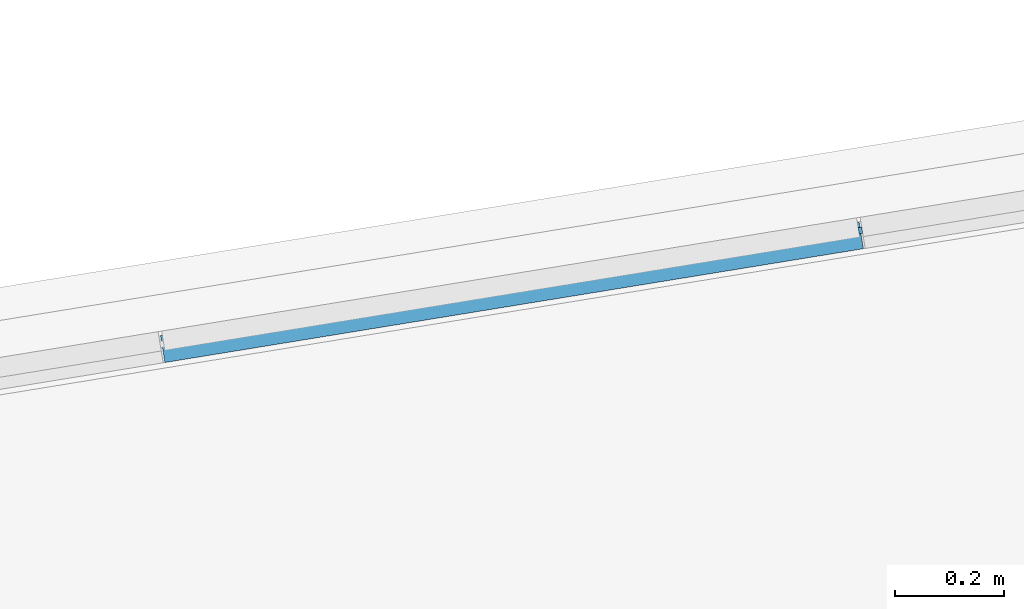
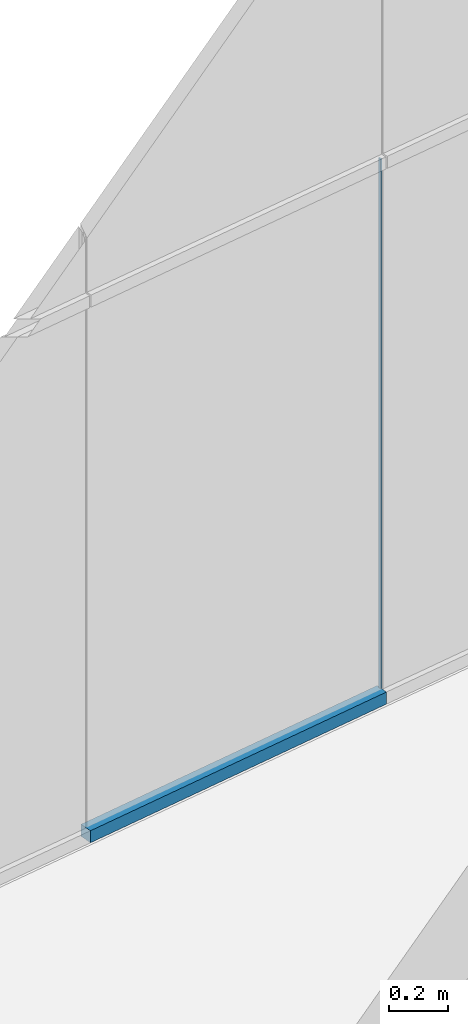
# One storey, part 9 of 13: 2 members, 1 element without a shape of its own.
"""IFC2X3 building model written with IfcOpenShell, lengths in millimetres."""

from ifc_helpers import new_model, entity, si_unit, converted_unit, derived_unit, direction, frame, origin, origin_with_axes, origin_2d_with_axis, place, context, subcontext, project, spatial, rectangle, extrude, source, transform, mapped, material, type_object, element, aggregate, save


model = new_model("IFC2X3")

# Units and contexts
plan_context = context("Plan", 3, precision=1e-05, world=origin_with_axes())
model_context = context("Model", 3, precision=0.01, world=origin(), true_north=direction((6.12323399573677e-17, 1.0)))
body_context = subcontext(model_context, "Body", "Model", "MODEL_VIEW")
ifc_project = project(units=[converted_unit("PLANEANGLEUNIT", "DEGREE", entity("IfcPositiveLengthMeasure", 0.0174532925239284), si_unit("PLANEANGLEUNIT", "RADIAN"), dimensions=[0, 0, 0, 0, 0, 0, 0]), si_unit("AREAUNIT", "SQUARE_METRE"), si_unit("LENGTHUNIT", "METRE", prefix="MILLI"), si_unit("MASSUNIT", "GRAM", prefix="KILO"), si_unit("POWERUNIT", "WATT"), si_unit("PRESSUREUNIT", "PASCAL", prefix="KILO"), si_unit("FORCEUNIT", "NEWTON", prefix="KILO"), si_unit("ELECTRICVOLTAGEUNIT", "VOLT"), si_unit("ELECTRICCURRENTUNIT", "AMPERE"), si_unit("THERMODYNAMICTEMPERATUREUNIT", "DEGREE_CELSIUS"), si_unit("TIMEUNIT", "SECOND"), si_unit("VOLUMEUNIT", "CUBIC_METRE"), derived_unit("LINEARVELOCITYUNIT", [(si_unit("LENGTHUNIT", "METRE"), 1), (si_unit("TIMEUNIT", "SECOND"), -1)]), derived_unit("VOLUMETRICFLOWRATEUNIT", [(si_unit("VOLUMEUNIT", "CUBIC_METRE"), 1), (si_unit("TIMEUNIT", "SECOND"), -1)]), derived_unit("THERMALTRANSMITTANCEUNIT", [(si_unit("POWERUNIT", "WATT"), 1), (si_unit("THERMODYNAMICTEMPERATUREUNIT", "KELVIN"), -1), (si_unit("AREAUNIT", "SQUARE_METRE"), -1)]), derived_unit("SOUNDPRESSUREUNIT", [(si_unit("PRESSUREUNIT", "PASCAL"), 1)])], contexts=[model_context, plan_context])

# Site, building, storey
site_placement = place(None, frame((-305029.896016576, -232111.759730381, 0.0), z_axis=(0.0, 0.0, 1.0), x_axis=(-0.160806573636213, 0.986985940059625, 0.0)))
site = spatial("IfcSite", under=ifc_project, at=site_placement, Name="Default", CompositionType="ELEMENT")
building_placement = place(site_placement, frame((0.0, 0.0, 0.0), z_axis=(0.0, 0.0, 1.0), x_axis=(1.0, -2.77555756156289e-17, 0.0)))
building = spatial("IfcBuilding", under=site, at=building_placement, Name="br001-a-200-1-0001", CompositionType="ELEMENT")
storey_placement = place(building_placement, frame((0.0, 0.0, 51360.0000000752), z_axis=(0.0, 0.0, 1.0), x_axis=(1.0, -2.77555756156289e-17, 0.0)))
storey = spatial("IfcBuildingStorey", under=building, at=storey_placement, Name="H01-Nivå D+0,36", CompositionType="ELEMENT", Elevation=51360.0000000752)

# Curtain wall, members
curtain_wall_type = type_object("IfcCurtainWallType", Name="Curtain Wall:A243 Innvendig glassvegg", PredefinedType="NOTDEFINED")
curtain_wall_placement = place(storey_placement, frame((0.0, 0.0, -51360.0000000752), z_axis=(0.0, 0.0, 1.0), x_axis=(1.0, -2.77555756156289e-17, 0.0)))
curtain_wall = element("IfcCurtainWall", 1, at=curtain_wall_placement, inside=storey, type_object=curtain_wall_type, Name="Curtain Wall:A243 Innvendig glassvegg", ObjectType="Curtain Wall:A243 Innvendig glassvegg")
ifc_material_1 = material(Name="T2 - Rubber")
member_type_1 = type_object("IfcMemberType", Name="Rectangular Mullion:6.66x12", PredefinedType="MULLION", material=ifc_material_1)
shared_shape_1 = source(origin(), body_context, "Body", "SweptSolid", [
    extrude(rectangle(XDim=6.6, YDim=12.0, at=origin_2d_with_axis()), frame((0.0, 6.0, -2196.66666667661), z_axis=(0.0, 0.0, 1.0), x_axis=(-1.0, 0.0, 0.0)), (0.0, 0.0, 1.0), 2196.6666666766),
])
member_1_placement = place(curtain_wall_placement, frame((1160258.59858442, -709786.378367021, 51410.0000000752), z_axis=(0.0, 0.0, -1.0), x_axis=(-2.77555756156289e-17, -1.0, 0.0)))
member_1 = element("IfcMember", 2, at=member_1_placement, type_object=member_type_1, material=ifc_material_1, Name="Rectangular Mullion:6.66x12", ObjectType="Rectangular Mullion:6.66x12", context=body_context, shape_type="MappedRepresentation", body=[
    mapped(shared_shape_1, transform((0.0, 0.0, 0.0), scale=1.0)),
])
ifc_material_2 = material(Name="Metal - Aluminium")
member_type_2 = type_object("IfcMemberType", Name="Rectangular Mullion:NSW 50x50 Add on", PredefinedType="MULLION", material=ifc_material_2)
shared_shape_2 = source(origin(), body_context, "Body", "SweptSolid", [
    extrude(rectangle(XDim=50.0, YDim=50.0, at=origin_2d_with_axis()), frame((-25.0, 15.0, -1300.0), z_axis=(0.0, 0.0, 1.0), x_axis=(-1.0, 0.0, 0.0)), (0.0, 0.0, 1.0), 1300.00000000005),
])
member_2_placement = place(curtain_wall_placement, frame((1160258.59858442, -708486.378367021, 51360.0000000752), z_axis=(2.77555756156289e-17, 1.0, 0.0), x_axis=(0.0, 0.0, -1.0)))
member_2 = element("IfcMember", 3, at=member_2_placement, type_object=member_type_2, material=ifc_material_2, Name="Rectangular Mullion:NSW 50x50 Add on", ObjectType="Rectangular Mullion:NSW 50x50 Add on", context=body_context, shape_type="MappedRepresentation", body=[
    mapped(shared_shape_2, transform((0.0, 0.0, 0.0), scale=1.0)),
])
aggregate(curtain_wall, [member_1, member_2])

save(model, "model.ifc")
